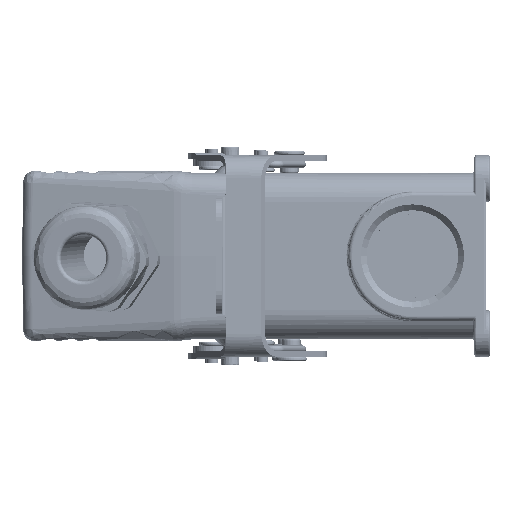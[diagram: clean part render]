
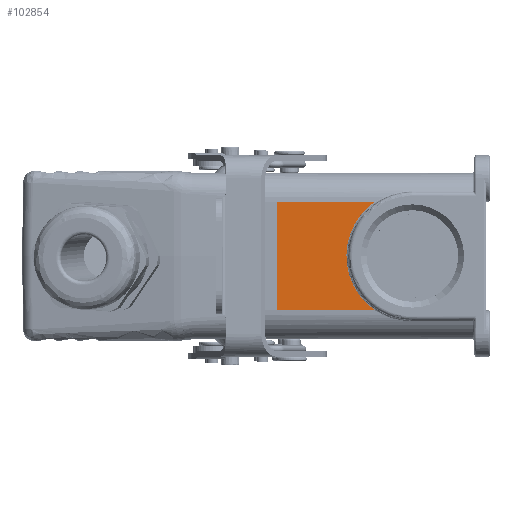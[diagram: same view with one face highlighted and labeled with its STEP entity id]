
A CAD part, left-side view. The second image highlights one B-rep face of the part: STEP entity #102854.
In plain terms, the highlighted planar face has unit normal (-1, 0, 0) as drawn and (0, 0, -1) by its records, which use the part's own axes.
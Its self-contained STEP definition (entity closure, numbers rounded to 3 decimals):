
#1746 = CARTESIAN_POINT ( 'NONE',  ( -6.689, 34.689, -36.5 ) ) ;
#3971 = LINE ( 'NONE', #125261, #177567 ) ;
#4275 = VERTEX_POINT ( 'NONE', #171186 ) ;
#4630 = DIRECTION ( 'NONE',  ( -1., 0., 0. ) ) ;
#8006 = EDGE_CURVE ( 'NONE', #66396, #142657, #20542, .T. ) ;
#13491 = CARTESIAN_POINT ( 'NONE',  ( 10.252, 32.63, -36.5 ) ) ;
#20316 = ORIENTED_EDGE ( 'NONE', *, *, #71041, .T. ) ;
#20542 = LINE ( 'NONE', #159937, #47328 ) ;
#29960 = DIRECTION ( 'NONE',  ( 0., 0., -1. ) ) ;
#35676 = AXIS2_PLACEMENT_3D ( 'NONE', #185332, #29960, #151244 ) ;
#39082 = DIRECTION ( 'NONE',  ( 0., -1., 0. ) ) ;
#39107 = CARTESIAN_POINT ( 'NONE',  ( -14., 28.644, -36.5 ) ) ;
#40220 = CARTESIAN_POINT ( 'NONE',  ( 2.736, 35.835, -36.5 ) ) ;
#42445 = VECTOR ( 'NONE', #169336, 1000. ) ;
#45073 = B_SPLINE_CURVE_WITH_KNOTS ( 'NONE', 3,
 ( #183602, #97378, #81402, #150619, #64455, #133605, #13491, #56066, #194507, #124210, #40220, #70858, #175243, #195603, #87912, #1746, #159316, #126397, #161513, #89000, #109432, #125283, #106110, #39107 ),
 .UNSPECIFIED., .F., .F.,
 ( 4, 1, 2, 2, 2, 2, 2, 2, 2, 1, 2, 2, 4 ),
 ( 0., 0.063, 0.094, 0.125, 0.25, 0.375, 0.5, 0.625, 0.75, 0.813, 0.844, 0.875, 1. ),
 .UNSPECIFIED. ) ;
#46843 = CARTESIAN_POINT ( 'NONE',  ( -14., 0., -36.5 ) ) ;
#47328 = VECTOR ( 'NONE', #4630, 1000. ) ;
#56066 = CARTESIAN_POINT ( 'NONE',  ( 9.127, 33.408, -36.5 ) ) ;
#56330 = CARTESIAN_POINT ( 'NONE',  ( -14., 54., -36.5 ) ) ;
#64455 = CARTESIAN_POINT ( 'NONE',  ( 11.788, 31.253, -36.5 ) ) ;
#66396 = VERTEX_POINT ( 'NONE', #71697 ) ;
#70858 = CARTESIAN_POINT ( 'NONE',  ( 1.377, 36., -36.5 ) ) ;
#71041 = EDGE_CURVE ( 'NONE', #66396, #113838, #3971, .T. ) ;
#71697 = CARTESIAN_POINT ( 'NONE',  ( 14., 54., -36.5 ) ) ;
#81402 = CARTESIAN_POINT ( 'NONE',  ( 12.973, 30.023, -36.5 ) ) ;
#87912 = CARTESIAN_POINT ( 'NONE',  ( -5.409, 35.175, -36.5 ) ) ;
#89000 = CARTESIAN_POINT ( 'NONE',  ( -10.761, 32.165, -36.5 ) ) ;
#97378 = CARTESIAN_POINT ( 'NONE',  ( 13.607, 29.212, -36.5 ) ) ;
#101392 = EDGE_CURVE ( 'NONE', #142657, #4275, #152335, .T. ) ;
#102854 = ADVANCED_FACE ( 'NONE', ( #116135 ), #133074, .T. ) ;
#106110 = CARTESIAN_POINT ( 'NONE',  ( -13.214, 29.782, -36.5 ) ) ;
#109432 = CARTESIAN_POINT ( 'NONE',  ( -11.026, 31.943, -36.5 ) ) ;
#113838 = VERTEX_POINT ( 'NONE', #185282 ) ;
#116135 = FACE_OUTER_BOUND ( 'NONE', #181029, .T. ) ;
#123356 = ORIENTED_EDGE ( 'NONE', *, *, #219583, .T. ) ;
#124210 = CARTESIAN_POINT ( 'NONE',  ( 5.409, 35.175, -36.5 ) ) ;
#125261 = CARTESIAN_POINT ( 'NONE',  ( 14., 0., -36.5 ) ) ;
#125283 = CARTESIAN_POINT ( 'NONE',  ( -12.309, 30.806, -36.5 ) ) ;
#126397 = CARTESIAN_POINT ( 'NONE',  ( -9.396, 33.197, -36.5 ) ) ;
#127322 = ORIENTED_EDGE ( 'NONE', *, *, #8006, .F. ) ;
#133074 = PLANE ( 'NONE',  #35676 ) ;
#133605 = CARTESIAN_POINT ( 'NONE',  ( 11.541, 31.487, -36.5 ) ) ;
#142657 = VERTEX_POINT ( 'NONE', #56330 ) ;
#150619 = CARTESIAN_POINT ( 'NONE',  ( 12.271, 30.77, -36.5 ) ) ;
#151244 = DIRECTION ( 'NONE',  ( 0., -1., 0. ) ) ;
#152335 = LINE ( 'NONE', #46843, #42445 ) ;
#159316 = CARTESIAN_POINT ( 'NONE',  ( -8.517, 33.729, -36.5 ) ) ;
#159937 = CARTESIAN_POINT ( 'NONE',  ( 0., 54., -36.5 ) ) ;
#161513 = CARTESIAN_POINT ( 'NONE',  ( -10.222, 32.588, -36.5 ) ) ;
#169336 = DIRECTION ( 'NONE',  ( 0., -1., 0. ) ) ;
#171186 = CARTESIAN_POINT ( 'NONE',  ( -14., 28.644, -36.5 ) ) ;
#175243 = CARTESIAN_POINT ( 'NONE',  ( -1.377, 36., -36.5 ) ) ;
#177567 = VECTOR ( 'NONE', #39082, 1000. ) ;
#181029 = EDGE_LOOP ( 'NONE', ( #201556, #127322, #20316, #123356 ) ) ;
#183602 = CARTESIAN_POINT ( 'NONE',  ( 14., 28.644, -36.5 ) ) ;
#185282 = CARTESIAN_POINT ( 'NONE',  ( 14., 28.644, -36.5 ) ) ;
#185332 = CARTESIAN_POINT ( 'NONE',  ( 21.5, 0., -36.5 ) ) ;
#194507 = CARTESIAN_POINT ( 'NONE',  ( 6.689, 34.689, -36.5 ) ) ;
#195603 = CARTESIAN_POINT ( 'NONE',  ( -2.736, 35.835, -36.5 ) ) ;
#201556 = ORIENTED_EDGE ( 'NONE', *, *, #101392, .F. ) ;
#219583 = EDGE_CURVE ( 'NONE', #113838, #4275, #45073, .T. ) ;
